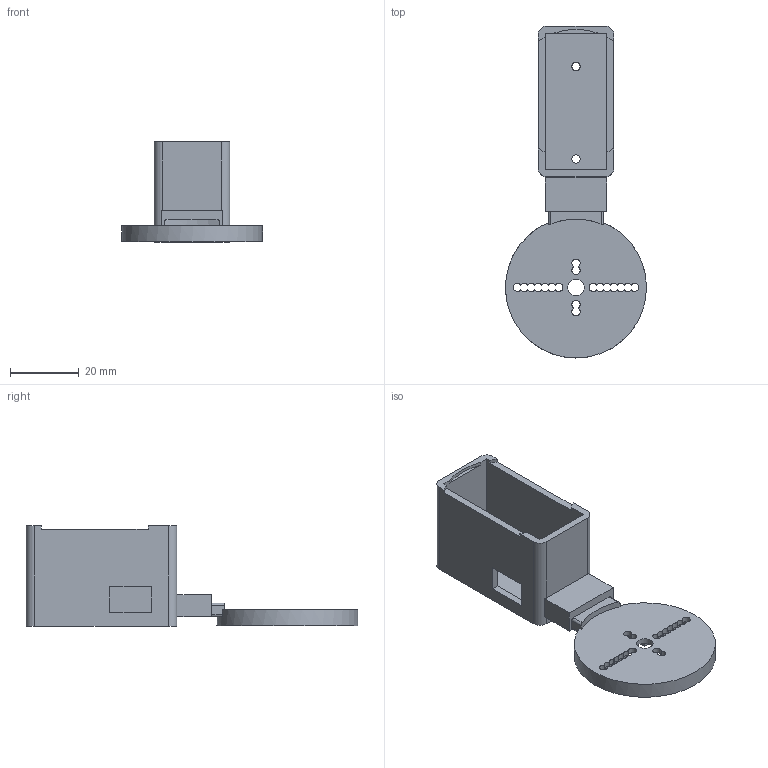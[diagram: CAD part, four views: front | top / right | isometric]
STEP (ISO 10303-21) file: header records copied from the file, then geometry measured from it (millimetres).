
FILE_DESCRIPTION(('Open CASCADE Model'),'2;1');
FILE_NAME('Open CASCADE Shape Model','2026-11-19T06:40:31',('Author'),( 'Open CASCADE'),'Open CASCADE STEP processor 8.0','Open CASCADE 8.0' ,'Unknown');
FILE_SCHEMA(('AUTOMOTIVE_DESIGN { 1 0 10303 214 1 1 1 1 }'));
Length unit declared in the file: millimetre
Products named in the file (1): Open CASCADE STEP translator 8.0 24
Bounding box: 41 x 96.47 x 29.2 mm (x, y, z)
Volume: 14402.2 mm3; surface area: 12720.4 mm2
Topology: 1 solids, 1 shells, 91 faces, 270 edges, 180 vertices
Faces by surface type: cylinder 46, plane 45
Full cylindrical faces by diameter (mm): 2.4 x2, 4.8 x1, 41 x1
Entity records: 6581 total; most frequent: CARTESIAN_POINT 1429, DIRECTION 899, ORIENTED_EDGE 540, PCURVE 540, DEFINITIONAL_REPRESENTATION 540, LINE 435, VECTOR 435, EDGE_CURVE 270
